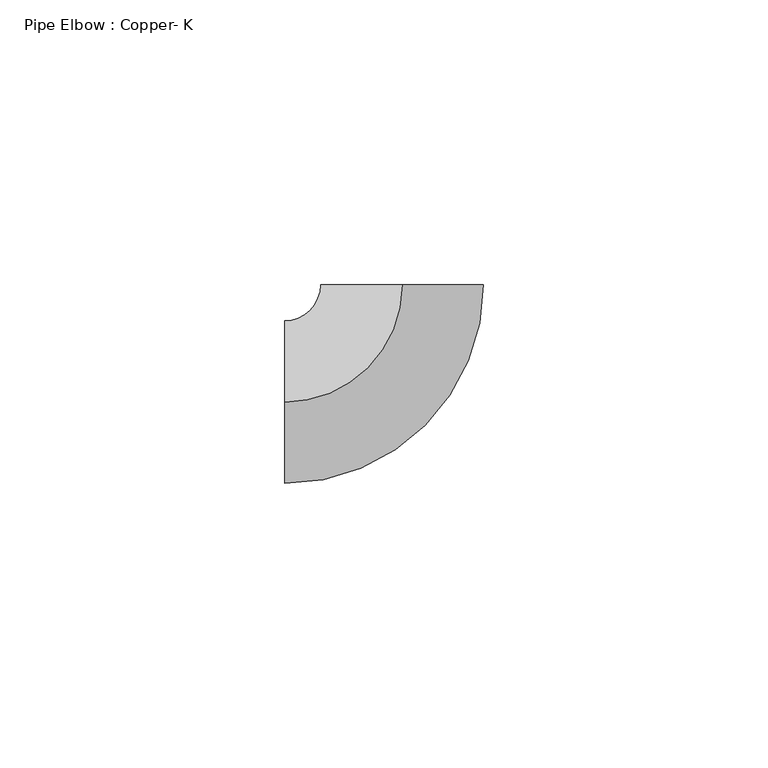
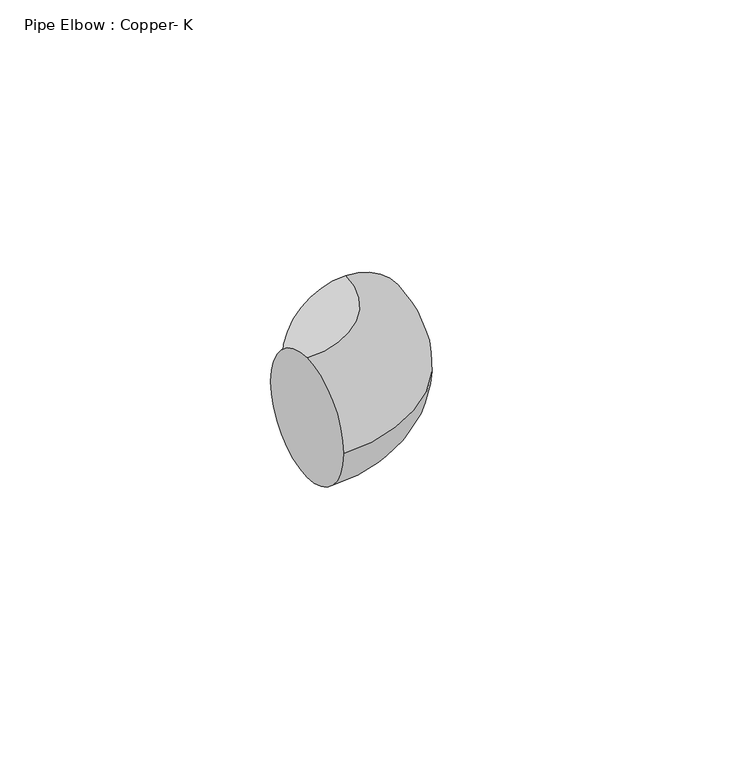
"""IFC4 building model written with IfcOpenShell, lengths in millimetres: pipe fitting geometry, Pipe Elbow : Copper- K."""

from ifc_helpers import new_model, si_unit, point, frame, origin, place, context, project, spatial, circle_curve, ellipse_curve, trimmed, source, transform, mapped, element, save
from ifc_brep_helpers import plane_surface, revolved_surface, advanced_brep


def pipe_elbow_copper_k_c3aa8096(model_context):
    return source(origin(), model_context, "Body", "AdvancedBrep", [
        advanced_brep(
        [(-20.6416997, 0.0, 14.2875), (-20.6416997, 14.2875, 0.0), (-20.6416997, 0.0, -14.2875), (-20.6416997, -14.2875, 0.0), (-0.0042001, 20.6416992, 14.2875), (14.2832996, 20.6446064, 0.0), (-0.0042001, 20.6416992, -14.2875), (-14.2916998, 20.6387921, 0.0)],
        [
            (0, 1, circle_curve(frame((-20.6416997, 0.0, 0.0), z_axis=(-1.0, 0.0, 0.0), x_axis=(0.0, 1.0, 0.0)), 14.2875)),
            (1, 2, circle_curve(frame((-20.6416997, 0.0, 0.0), z_axis=(-1.0, 0.0, 0.0), x_axis=(0.0, 1.0, 0.0)), 14.2875)),
            (2, 3, circle_curve(frame((-20.6416997, 0.0, 0.0), z_axis=(-1.0, 0.0, 0.0), x_axis=(0.0, 1.0, 0.0)), 14.2875)),
            (3, 0, circle_curve(frame((-20.6416997, 0.0, 0.0), z_axis=(-1.0, 0.0, 0.0), x_axis=(0.0, 1.0, 0.0)), 14.2875)),
            (4, 5, circle_curve(frame((-0.0042001, 20.6416992, 0.0), z_axis=(-0.00020347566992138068, 0.9999999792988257, 0.0), x_axis=(-0.9999999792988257, -0.00020347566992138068, 0.0)), 14.2875)),
            (5, 6, circle_curve(frame((-0.0042001, 20.6416992, 0.0), z_axis=(-0.00020347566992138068, 0.9999999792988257, 0.0), x_axis=(-0.9999999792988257, -0.00020347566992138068, 0.0)), 14.2875)),
            (6, 7, circle_curve(frame((-0.0042001, 20.6416992, 0.0), z_axis=(-0.00020347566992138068, 0.9999999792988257, 0.0), x_axis=(-0.9999999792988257, -0.00020347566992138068, 0.0)), 14.2875)),
            (7, 4, circle_curve(frame((-0.0042001, 20.6416992, 0.0), z_axis=(-0.00020347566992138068, 0.9999999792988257, 0.0), x_axis=(-0.9999999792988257, -0.00020347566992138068, 0.0)), 14.2875)),
            (7, 1, circle_curve(frame((-20.6416997, 20.6375, 0.0), z_axis=(0.0, 0.0, -1.0), x_axis=(0.0, -1.0, 0.0)), 6.35)),
            (0, 4, circle_curve(frame((-20.6416997, 20.6375, 14.2875), z_axis=(0.0, 0.0, 1.0), x_axis=(0.0, -1.0, 0.0)), 20.6375)),
            (6, 2, circle_curve(frame((-20.6416997, 20.6375, -14.2875), z_axis=(0.0, 0.0, -1.0), x_axis=(0.0, -1.0, 0.0)), 20.6375)),
            (5, 3, circle_curve(frame((-20.6416997, 20.6375, 0.0), z_axis=(0.0, 0.0, -1.0), x_axis=(0.0, -1.0, 0.0)), 34.925)),
        ],
        [
            plane_surface(frame((-20.6416997, 0.0, 0.0), z_axis=(-1.0, 0.0, 0.0), x_axis=(0.0, 0.0, 1.0))),
            plane_surface(frame((-0.0042001, 20.6416992, 0.0), z_axis=(-0.00020347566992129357, 0.9999999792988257, 0.0), x_axis=(0.0, 0.0, 1.0))),
            revolved_surface(trimmed(ellipse_curve(frame((-20.6416997, 0.0, 0.0), z_axis=(-1.0, 0.0, 0.0), x_axis=(0.0, 1.0, 0.0)), 14.2875, 14.2875), [point((-20.6416997, 0.0, 14.2875))], [point((-20.6416997, 14.2875, 0.0))], True, "CARTESIAN"), (-20.6416997, 20.6375, 0.0), (0.0, 0.0, 1.0)),
            revolved_surface(trimmed(ellipse_curve(frame((-20.6416997, 0.0, 0.0), z_axis=(-1.0, 0.0, 0.0), x_axis=(0.0, 1.0, 0.0)), 14.2875, 14.2875), [point((-20.6416997, 14.2875, 0.0))], [point((-20.6416997, 0.0, -14.2875))], True, "CARTESIAN"), (-20.6416997, 20.6375, 0.0), (0.0, 0.0, 1.0)),
            revolved_surface(trimmed(ellipse_curve(frame((-20.6416997, 0.0, 0.0), z_axis=(-1.0, 0.0, 0.0), x_axis=(0.0, 1.0, 0.0)), 14.2875, 14.2875), [point((-20.6416997, 0.0, -14.2875))], [point((-20.6416997, -14.2875, 0.0))], True, "CARTESIAN"), (-20.6416997, 20.6375, 0.0), (0.0, 0.0, 1.0)),
            revolved_surface(trimmed(ellipse_curve(frame((-20.6416997, 0.0, 0.0), z_axis=(-1.0, 0.0, 0.0), x_axis=(0.0, 1.0, 0.0)), 14.2875, 14.2875), [point((-20.6416997, -14.2875, 0.0))], [point((-20.6416997, 0.0, 14.2875))], True, "CARTESIAN"), (-20.6416997, 20.6375, 0.0), (0.0, 0.0, 1.0)),
        ],
        [
            (0, [[1, 2, 3, 4]]),
            (1, [[5, 6, 7, 8]]),
            (2, [[9, -1, 10, -8]]),
            (3, [[11, -2, -9, -7]]),
            (4, [[12, -3, -11, -6]]),
            (5, [[-10, -4, -12, -5]]),
        ],
    ),
        advanced_brep(
        [(-20.6416997, 0.0, 14.2875), (-20.6416997, 14.2875, 0.0), (-20.6416997, 0.0, -14.2875), (-20.6416997, -14.2875, 0.0), (-0.0042001, 20.6416992, 14.2875), (14.2832996, 20.6446064, 0.0), (-0.0042001, 20.6416992, -14.2875), (-14.2916998, 20.6387921, 0.0)],
        [
            (0, 1, circle_curve(frame((-20.6416997, 0.0, 0.0), z_axis=(-1.0, 0.0, 0.0), x_axis=(0.0, 1.0, 0.0)), 14.2875)),
            (1, 2, circle_curve(frame((-20.6416997, 0.0, 0.0), z_axis=(-1.0, 0.0, 0.0), x_axis=(0.0, 1.0, 0.0)), 14.2875)),
            (2, 3, circle_curve(frame((-20.6416997, 0.0, 0.0), z_axis=(-1.0, 0.0, 0.0), x_axis=(0.0, 1.0, 0.0)), 14.2875)),
            (3, 0, circle_curve(frame((-20.6416997, 0.0, 0.0), z_axis=(-1.0, 0.0, 0.0), x_axis=(0.0, 1.0, 0.0)), 14.2875)),
            (4, 5, circle_curve(frame((-0.0042001, 20.6416992, 0.0), z_axis=(-0.00020347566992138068, 0.9999999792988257, 0.0), x_axis=(-0.9999999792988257, -0.00020347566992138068, 0.0)), 14.2875)),
            (5, 6, circle_curve(frame((-0.0042001, 20.6416992, 0.0), z_axis=(-0.00020347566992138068, 0.9999999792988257, 0.0), x_axis=(-0.9999999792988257, -0.00020347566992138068, 0.0)), 14.2875)),
            (6, 7, circle_curve(frame((-0.0042001, 20.6416992, 0.0), z_axis=(-0.00020347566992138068, 0.9999999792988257, 0.0), x_axis=(-0.9999999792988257, -0.00020347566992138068, 0.0)), 14.2875)),
            (7, 4, circle_curve(frame((-0.0042001, 20.6416992, 0.0), z_axis=(-0.00020347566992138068, 0.9999999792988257, 0.0), x_axis=(-0.9999999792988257, -0.00020347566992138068, 0.0)), 14.2875)),
            (7, 1, circle_curve(frame((-20.6416997, 20.6375, 0.0), z_axis=(0.0, 0.0, -1.0), x_axis=(0.0, -1.0, 0.0)), 6.35)),
            (0, 4, circle_curve(frame((-20.6416997, 20.6375, 14.2875), z_axis=(0.0, 0.0, 1.0), x_axis=(0.0, -1.0, 0.0)), 20.6375)),
            (6, 2, circle_curve(frame((-20.6416997, 20.6375, -14.2875), z_axis=(0.0, 0.0, -1.0), x_axis=(0.0, -1.0, 0.0)), 20.6375)),
            (5, 3, circle_curve(frame((-20.6416997, 20.6375, 0.0), z_axis=(0.0, 0.0, -1.0), x_axis=(0.0, -1.0, 0.0)), 34.925)),
        ],
        [
            plane_surface(frame((-20.6416997, 0.0, 0.0), z_axis=(-1.0, 0.0, 0.0), x_axis=(0.0, 0.0, 1.0))),
            plane_surface(frame((-0.0042001, 20.6416992, 0.0), z_axis=(-0.00020347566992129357, 0.9999999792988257, 0.0), x_axis=(0.0, 0.0, 1.0))),
            revolved_surface(trimmed(ellipse_curve(frame((-20.6416997, 0.0, 0.0), z_axis=(-1.0, 0.0, 0.0), x_axis=(0.0, 1.0, 0.0)), 14.2875, 14.2875), [point((-20.6416997, 0.0, 14.2875))], [point((-20.6416997, 14.2875, 0.0))], True, "CARTESIAN"), (-20.6416997, 20.6375, 0.0), (0.0, 0.0, 1.0)),
            revolved_surface(trimmed(ellipse_curve(frame((-20.6416997, 0.0, 0.0), z_axis=(-1.0, 0.0, 0.0), x_axis=(0.0, 1.0, 0.0)), 14.2875, 14.2875), [point((-20.6416997, 14.2875, 0.0))], [point((-20.6416997, 0.0, -14.2875))], True, "CARTESIAN"), (-20.6416997, 20.6375, 0.0), (0.0, 0.0, 1.0)),
            revolved_surface(trimmed(ellipse_curve(frame((-20.6416997, 0.0, 0.0), z_axis=(-1.0, 0.0, 0.0), x_axis=(0.0, 1.0, 0.0)), 14.2875, 14.2875), [point((-20.6416997, 0.0, -14.2875))], [point((-20.6416997, -14.2875, 0.0))], True, "CARTESIAN"), (-20.6416997, 20.6375, 0.0), (0.0, 0.0, 1.0)),
            revolved_surface(trimmed(ellipse_curve(frame((-20.6416997, 0.0, 0.0), z_axis=(-1.0, 0.0, 0.0), x_axis=(0.0, 1.0, 0.0)), 14.2875, 14.2875), [point((-20.6416997, -14.2875, 0.0))], [point((-20.6416997, 0.0, 14.2875))], True, "CARTESIAN"), (-20.6416997, 20.6375, 0.0), (0.0, 0.0, 1.0)),
        ],
        [
            (0, [[1, 2, 3, 4]]),
            (1, [[5, 6, 7, 8]]),
            (2, [[9, -1, 10, -8]]),
            (3, [[11, -2, -9, -7]]),
            (4, [[12, -3, -11, -6]]),
            (5, [[-10, -4, -12, -5]]),
        ],
    ),
    ])


if __name__ == "__main__":
    model = new_model("IFC4")
    model_context = context("Model", 3, world=origin())
    ifc_project = project(units=[si_unit("LENGTHUNIT", "METRE", prefix="MILLI")], contexts=[model_context])
    site = spatial("IfcSite", under=ifc_project)
    building = spatial("IfcBuilding", under=site)
    placement = place(None, origin())
    pipe_elbow_copper_k_shape = pipe_elbow_copper_k_c3aa8096(model_context)
    element("IfcPipeFitting", 1, ObjectType="Pipe Elbow : Copper- K", at=placement, inside=building, context=model_context, shape_type="MappedRepresentation", body=[
        mapped(pipe_elbow_copper_k_shape, transform((0.0, 0.0, 0.0), x_axis=(1.0, 0.0, 0.0), y_axis=(0.0, 1.0, 0.0), z_axis=(0.0, 0.0, 1.0))),
    ])
    save(model, "model.ifc")
